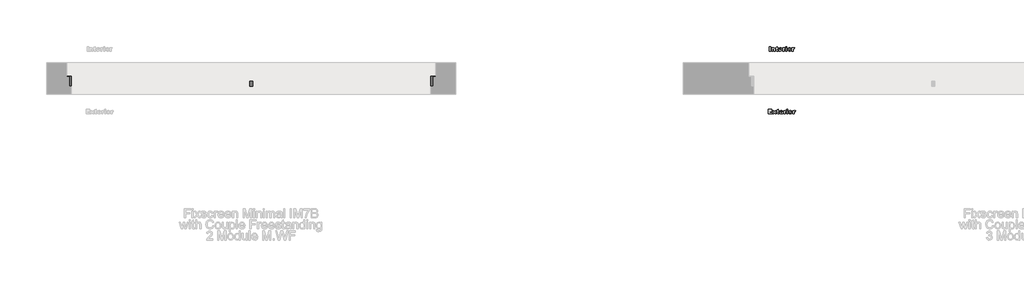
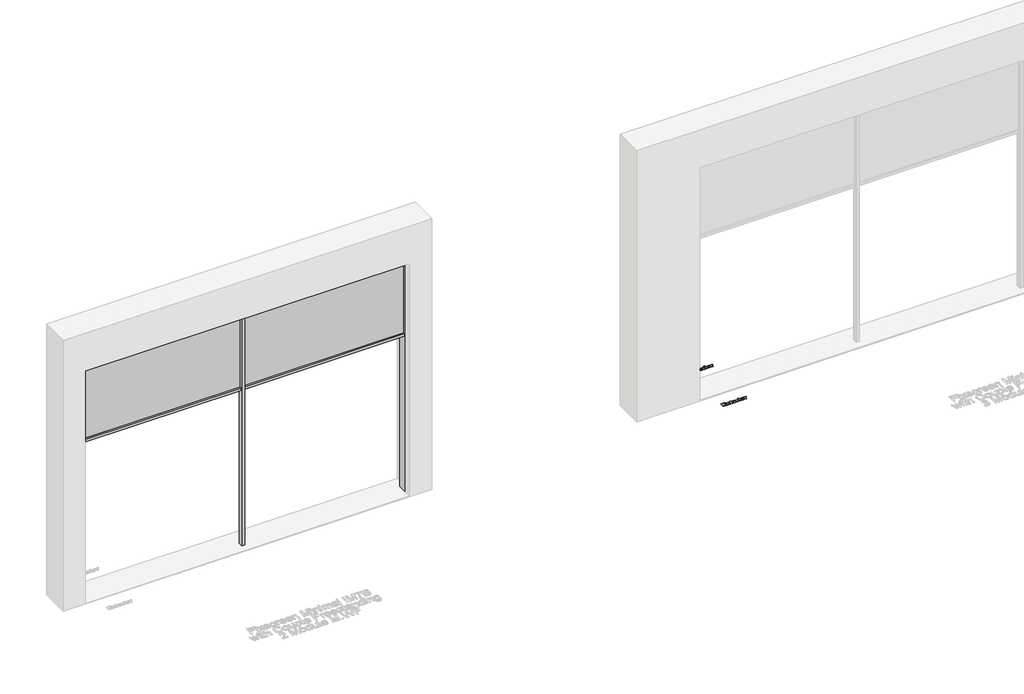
# One storey, part 9 of 14: 3 proxies.
"""IFC4 building model written with IfcOpenShell, lengths in millimetres."""

from ifc_helpers import new_model, si_unit, origin, origin_with_axes, place, context, project, spatial, polyline, outline, extrude, transform, mapped, element, save
from components import generic_models_342898e8

model = new_model("IFC4")

# Units and contexts
model_context = context("Model", 3, world=origin())
ifc_project = project(units=[si_unit("LENGTHUNIT", "METRE", prefix="MILLI")], contexts=[model_context])

# Site, building, storey
site = spatial("IfcSite", under=ifc_project)
building = spatial("IfcBuilding", under=site)
storey = spatial("IfcBuildingStorey", under=building, Name="Fixscreen Mini CF Overview Top", Elevation=0.0)

# Proxies
placement = place(None, origin())
generic_models_shape = generic_models_342898e8(model_context)
element("IfcBuildingElementProxy", 1, Name="Renson_Fixscreen_Minimal_IM7B_With_CF : Recessed - Front of the window - Medium-CF - Access downwards - Fabric away from the window", ObjectType="Renson_Fixscreen_Minimal_IM7B_With_CF : Recessed - Front of the window - Medium-CF - Access downwards - Fabric away from the window", at=placement, inside=storey, context=model_context, shape_type="MappedRepresentation", body=[
    mapped(generic_models_shape, transform((-6342.8595357, 10326.5367638, -790.0), x_axis=(-1.0, 0.0, 0.0), y_axis=(0.0, -1.0, 0.0), z_axis=(0.0, 0.0, 1.0))),
])
element("IfcBuildingElementProxy", 2, Name="50mm Arial", ObjectType="50mm Arial", at=placement, inside=storey, context=model_context, shape_type="SweptSolid", body=[
    extrude(outline(polyline([(-1859.7717135, 9988.1585284), (-1818.4500461, 9988.1585284), (-1818.4500461, 9976.3523377), (-1844.0301259, 9976.3523377), (-1844.0301259, 9971.4330916), (-1820.4177446, 9971.4330916), (-1820.4177446, 9959.6269009), (-1844.0301259, 9959.6269009), (-1844.0301259, 9949.7884087), (-1817.4661969, 9949.7884087), (-1817.4661969, 9937.982218), (-1859.7717135, 9937.982218), (-1859.7717135, 9988.1585284)])), origin_with_axes(), (0.0, 0.0, 1.0), 3.0),
    extrude(outline(polyline([(-1813.5308, 9974.3846393), (-1796.8053632, 9974.3846393), (-1791.3941925, 9964.2386942), (-1783.0314741, 9974.3846393), (-1769.257585, 9974.3846393), (-1781.6786814, 9957.0442967), (-1768.2737357, 9937.982218), (-1784.0153233, 9937.982218), (-1791.3941925, 9949.7115455), (-1800.7407601, 9937.982218), (-1814.5146492, 9937.982218), (-1801.1097036, 9957.0442967), (-1813.5308, 9974.3846393)])), origin_with_axes(), (0.0, 0.0, 1.0), 3.0),
    extrude(outline(polyline([(-1747.6129021, 9988.1585284), (-1747.6129021, 9974.3846393), (-1739.7421083, 9974.3846393), (-1739.7421083, 9964.5461471), (-1747.6129021, 9964.5461471), (-1747.6129021, 9951.2180646), (-1747.182468, 9948.0359273), (-1744.8765714, 9946.836861), (-1740.7259575, 9947.7592197), (-1739.7421083, 9938.1205718), (-1749.1809118, 9936.9983688), (-1756.6673894, 9938.3588478), (-1760.2338429, 9942.4940891), (-1761.3867912, 9951.4947722), (-1761.3867912, 9964.5461471), (-1766.3060373, 9964.5461471), (-1766.3060373, 9974.3846393), (-1761.3867912, 9974.3846393), (-1761.3867912, 9981.0256216), (-1747.6129021, 9988.1585284)])), origin_with_axes(), (0.0, 0.0, 1.0), 3.0),
    extrude(outline(polyline([(-1693.5011948, 9953.5316476), (-1721.048973, 9952.7399564), (-1719.3272369, 9948.7276963), (-1714.3003823, 9946.836861), (-1710.5802024, 9947.743847), (-1708.2589331, 9949.7884087), (-1694.485044, 9948.8045595), (-1701.9023448, 9939.7423858), (-1714.3772455, 9936.9983688), (-1725.4609219, 9939.0583031), (-1732.1633947, 9945.5916769), (-1734.8228622, 9956.1219381), (-1729.4654957, 9970.0418673), (-1723.08777, 9974.0368332), (-1714.6693257, 9975.3684885), (-1702.5787411, 9972.9857287), (-1695.822464, 9966.0834115), (-1693.5011948, 9953.5316476)]), holes=[polyline([(-1707.2750839, 9959.6269009), (-1709.450313, 9964.161831), (-1714.1005379, 9965.5299963), (-1719.4041001, 9963.470062), (-1721.0182277, 9959.6269009), (-1707.2750839, 9959.6269009)])]), origin_with_axes(), (0.0, 0.0, 1.0), 3.0),
    extrude(outline(polyline([(-1687.5980994, 9974.3846393), (-1674.7619416, 9974.3846393), (-1674.7619416, 9968.5276619), (-1670.8496037, 9973.900401), (-1665.8611807, 9975.3684885), (-1659.066472, 9973.3085542), (-1663.4169302, 9963.5161799), (-1667.3523271, 9964.5461471), (-1671.6412948, 9962.2709957), (-1673.8242103, 9950.2649607), (-1673.8242103, 9937.982218), (-1687.5980994, 9937.982218), (-1687.5980994, 9974.3846393)])), origin_with_axes(), (0.0, 0.0, 1.0), 3.0),
    extrude(outline(polyline([(-1656.1149243, 9988.1585284), (-1642.3410352, 9988.1585284), (-1642.3410352, 9978.3200362), (-1656.1149243, 9978.3200362), (-1656.1149243, 9988.1585284)])), origin_with_axes(), (0.0, 0.0, 1.0), 3.0),
    extrude(outline(polyline([(-1656.1149243, 9974.3846393), (-1642.3410352, 9974.3846393), (-1642.3410352, 9937.982218), (-1656.1149243, 9937.982218), (-1656.1149243, 9974.3846393)])), origin_with_axes(), (0.0, 0.0, 1.0), 3.0),
    extrude(outline(polyline([(-1634.4702414, 9956.0758202), (-1629.0513843, 9969.9265725), (-1622.6775018, 9974.0080095), (-1614.3935682, 9975.3684885), (-1605.1392364, 9973.7697335), (-1598.4675089, 9968.9734686), (-1594.1324232, 9956.2910372), (-1599.5051623, 9942.4095395), (-1605.905947, 9938.3511615), (-1614.3628229, 9936.9983688), (-1628.0598488, 9941.4871809), (-1632.8676432, 9947.9167893), (-1634.4702414, 9956.0758202)]), holes=[polyline([(-1620.6963523, 9956.1988013), (-1618.8746939, 9949.127385), (-1614.2859597, 9946.836861), (-1609.6972254, 9949.0966397), (-1607.9063124, 9956.3371551), (-1609.712598, 9963.254845), (-1614.1937238, 9965.5299963), (-1618.8593213, 9963.2240997), (-1620.6963523, 9956.1988013)])]), origin_with_axes(), (0.0, 0.0, 1.0), 3.0),
    extrude(outline(polyline([(-1587.2454787, 9974.3846393), (-1574.4093208, 9974.3846393), (-1574.4093208, 9968.5276619), (-1570.4969829, 9973.900401), (-1565.5085599, 9975.3684885), (-1558.7138512, 9973.3085542), (-1563.0643095, 9963.5161799), (-1566.9997064, 9964.5461471), (-1571.2886741, 9962.2709957), (-1573.4715895, 9950.2649607), (-1573.4715895, 9937.982218), (-1587.2454787, 9937.982218), (-1587.2454787, 9974.3846393)])), origin_with_axes(), (0.0, 0.0, 1.0), 3.0),
])
element("IfcBuildingElementProxy", 3, Name="50mm Arial", ObjectType="50mm Arial", at=placement, inside=storey, context=model_context, shape_type="SweptSolid", body=[
    extrude(outline(polyline([(-1847.4735982, 10678.4508797), (-1831.7320107, 10678.4508797), (-1831.7320107, 10628.2745694), (-1847.4735982, 10628.2745694), (-1847.4735982, 10678.4508797)])), origin_with_axes(), (0.0, 0.0, 1.0), 3.0),
    extrude(outline(polyline([(-1821.8935184, 10664.6769906), (-1809.0727332, 10664.6769906), (-1809.0727332, 10658.9122491), (-1803.1619516, 10664.1005165), (-1795.8830046, 10665.6608398), (-1786.8054582, 10662.2019949), (-1783.5233987, 10651.5180073), (-1783.5233987, 10628.2745694), (-1797.2972878, 10628.2745694), (-1797.2972878, 10648.504969), (-1798.6039626, 10653.4011562), (-1802.2626519, 10654.8384984), (-1806.4978153, 10652.9015452), (-1808.1196293, 10645.9377374), (-1808.1196293, 10628.2745694), (-1821.8935184, 10628.2745694), (-1821.8935184, 10664.6769906)])), origin_with_axes(), (0.0, 0.0, 1.0), 3.0),
    extrude(outline(polyline([(-1758.9271681, 10678.4508797), (-1758.9271681, 10664.6769906), (-1751.0563743, 10664.6769906), (-1751.0563743, 10654.8384984), (-1758.9271681, 10654.8384984), (-1758.9271681, 10641.5104159), (-1758.4967341, 10638.3282786), (-1756.1908375, 10637.1292124), (-1752.0402236, 10638.051571), (-1751.0563743, 10628.4129232), (-1760.4951778, 10627.2907201), (-1767.9816555, 10628.6511991), (-1771.5481089, 10632.7864404), (-1772.7010573, 10641.7871235), (-1772.7010573, 10654.8384984), (-1777.6203034, 10654.8384984), (-1777.6203034, 10664.6769906), (-1772.7010573, 10664.6769906), (-1772.7010573, 10671.3179729), (-1758.9271681, 10678.4508797)])), origin_with_axes(), (0.0, 0.0, 1.0), 3.0),
    extrude(outline(polyline([(-1704.8154608, 10643.8239989), (-1732.3632391, 10643.0323077), (-1730.641503, 10639.0200476), (-1725.6146483, 10637.1292124), (-1721.8944685, 10638.0361984), (-1719.5731992, 10640.08076), (-1705.7993101, 10639.0969108), (-1713.2166109, 10630.0347371), (-1725.6915116, 10627.2907201), (-1736.775188, 10629.3506544), (-1743.4776608, 10635.8840282), (-1746.1371282, 10646.4142894), (-1740.7797618, 10660.3342187), (-1734.402036, 10664.3291845), (-1725.9835918, 10665.6608398), (-1713.8930072, 10663.27808), (-1707.1367301, 10656.3757628), (-1704.8154608, 10643.8239989)]), holes=[polyline([(-1718.58935, 10649.9192523), (-1720.7645791, 10654.4541823), (-1725.414804, 10655.8223476), (-1730.7183662, 10653.7624133), (-1732.3324938, 10649.9192523), (-1718.58935, 10649.9192523)])]), origin_with_axes(), (0.0, 0.0, 1.0), 3.0),
    extrude(outline(polyline([(-1698.9123655, 10664.6769906), (-1686.0762077, 10664.6769906), (-1686.0762077, 10658.8200132), (-1682.1638697, 10664.1927523), (-1677.1754467, 10665.6608398), (-1670.380738, 10663.6009055), (-1674.7311963, 10653.8085312), (-1678.6665932, 10654.8384984), (-1682.9555609, 10652.5633471), (-1685.1384764, 10640.557312), (-1685.1384764, 10628.2745694), (-1698.9123655, 10628.2745694), (-1698.9123655, 10664.6769906)])), origin_with_axes(), (0.0, 0.0, 1.0), 3.0),
    extrude(outline(polyline([(-1667.4291904, 10678.4508797), (-1653.6553012, 10678.4508797), (-1653.6553012, 10668.6123875), (-1667.4291904, 10668.6123875), (-1667.4291904, 10678.4508797)])), origin_with_axes(), (0.0, 0.0, 1.0), 3.0),
    extrude(outline(polyline([(-1667.4291904, 10664.6769906), (-1653.6553012, 10664.6769906), (-1653.6553012, 10628.2745694), (-1667.4291904, 10628.2745694), (-1667.4291904, 10664.6769906)])), origin_with_axes(), (0.0, 0.0, 1.0), 3.0),
    extrude(outline(polyline([(-1645.7845074, 10646.3681715), (-1640.3656504, 10660.2189238), (-1633.9917678, 10664.3003608), (-1625.7078342, 10665.6608398), (-1616.4535025, 10664.0620849), (-1609.7817749, 10659.2658199), (-1605.4466893, 10646.5833885), (-1610.8194284, 10632.7018909), (-1617.2202131, 10628.6435128), (-1625.6770889, 10627.2907201), (-1639.3741149, 10631.7795322), (-1644.1819093, 10638.2091406), (-1645.7845074, 10646.3681715)]), holes=[polyline([(-1632.0106183, 10646.4911526), (-1630.18896, 10639.4197363), (-1625.6002257, 10637.1292124), (-1621.0114915, 10639.388991), (-1619.2205784, 10646.6295064), (-1621.0268641, 10653.5471963), (-1625.5079899, 10655.8223476), (-1630.1735874, 10653.516451), (-1632.0106183, 10646.4911526)])]), origin_with_axes(), (0.0, 0.0, 1.0), 3.0),
    extrude(outline(polyline([(-1598.5597447, 10664.6769906), (-1585.7235869, 10664.6769906), (-1585.7235869, 10658.8200132), (-1581.811249, 10664.1927523), (-1576.822826, 10665.6608398), (-1570.0281173, 10663.6009055), (-1574.3785755, 10653.8085312), (-1578.3139724, 10654.8384984), (-1582.6029401, 10652.5633471), (-1584.7858556, 10640.557312), (-1584.7858556, 10628.2745694), (-1598.5597447, 10628.2745694), (-1598.5597447, 10664.6769906)])), origin_with_axes(), (0.0, 0.0, 1.0), 3.0),
])

save(model, "model.ifc")
